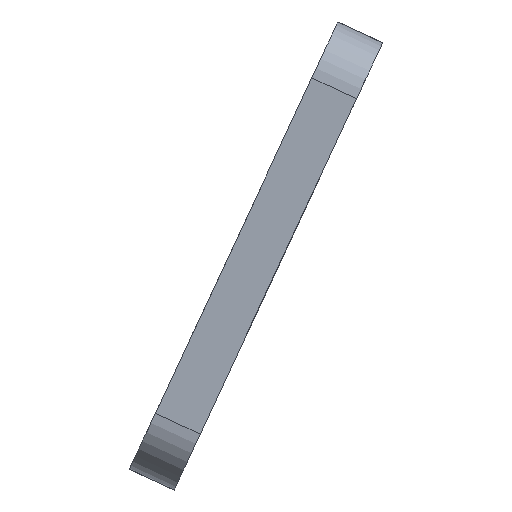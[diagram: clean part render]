
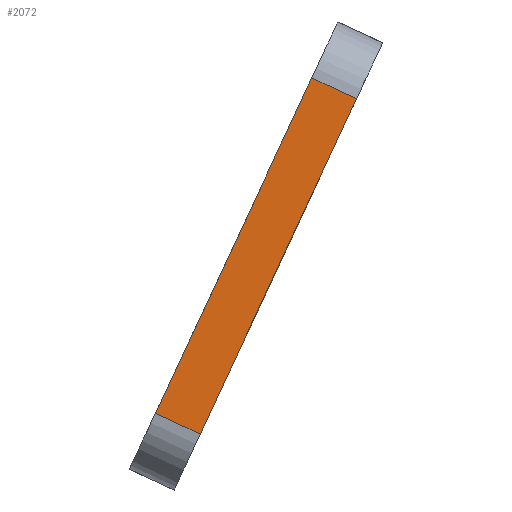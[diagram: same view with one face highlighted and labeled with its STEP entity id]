
A CAD part, left-side view. The second image highlights one B-rep face of the part: STEP entity #2072.
In plain terms, the highlighted planar face has unit normal (-1, 0, 0).
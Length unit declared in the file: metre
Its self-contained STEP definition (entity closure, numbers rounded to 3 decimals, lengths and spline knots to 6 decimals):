
#112=LINE('',#3066,#390);
#192=LINE('',#3243,#470);
#207=LINE('',#3277,#485);
#208=LINE('',#3279,#486);
#390=VECTOR('',#2433,1.);
#470=VECTOR('',#2531,1.);
#485=VECTOR('',#2562,1.);
#486=VECTOR('',#2565,1.);
#800=ORIENTED_EDGE('',*,*,#1403,.F.);
#801=ORIENTED_EDGE('',*,*,#1384,.T.);
#802=ORIENTED_EDGE('',*,*,#1404,.T.);
#803=ORIENTED_EDGE('',*,*,#1296,.F.);
#1296=EDGE_CURVE('',#1604,#1605,#112,.T.);
#1384=EDGE_CURVE('',#1693,#1692,#192,.T.);
#1403=EDGE_CURVE('',#1693,#1604,#207,.T.);
#1404=EDGE_CURVE('',#1692,#1605,#208,.T.);
#1604=VERTEX_POINT('',#3065);
#1605=VERTEX_POINT('',#3067);
#1692=VERTEX_POINT('',#3242);
#1693=VERTEX_POINT('',#3244);
#1758=EDGE_LOOP('',(#800,#801,#802,#803));
#1874=FACE_BOUND('',#1758,.T.);
#1980=PLANE('',#2214);
#2072=ADVANCED_FACE('',(#1874),#1980,.F.);
#2214=AXIS2_PLACEMENT_3D('',#3278,#2563,#2564);
#2433=DIRECTION('',(0.,0.423,-0.906));
#2531=DIRECTION('',(0.,0.423,-0.906));
#2562=DIRECTION('',(0.,-0.906,-0.423));
#2563=DIRECTION('',(1.,0.,0.));
#2564=DIRECTION('',(0.,0.906,0.423));
#2565=DIRECTION('',(0.,-0.906,-0.423));
#3065=CARTESIAN_POINT('',(-0.044584,-0.232043,0.00593));
#3066=CARTESIAN_POINT('',(-0.044584,-0.225703,-0.007665));
#3067=CARTESIAN_POINT('',(-0.044584,-0.219364,-0.021259));
#3242=CARTESIAN_POINT('',(-0.044584,-0.215739,-0.019569));
#3243=CARTESIAN_POINT('',(-0.044584,-0.222078,-0.005974));
#3244=CARTESIAN_POINT('',(-0.044584,-0.228417,0.00762));
#3277=CARTESIAN_POINT('',(-0.044584,-0.229777,0.006986));
#3278=CARTESIAN_POINT('',(-0.044584,-0.223438,-0.006608));
#3279=CARTESIAN_POINT('',(-0.044584,-0.217098,-0.020203));
